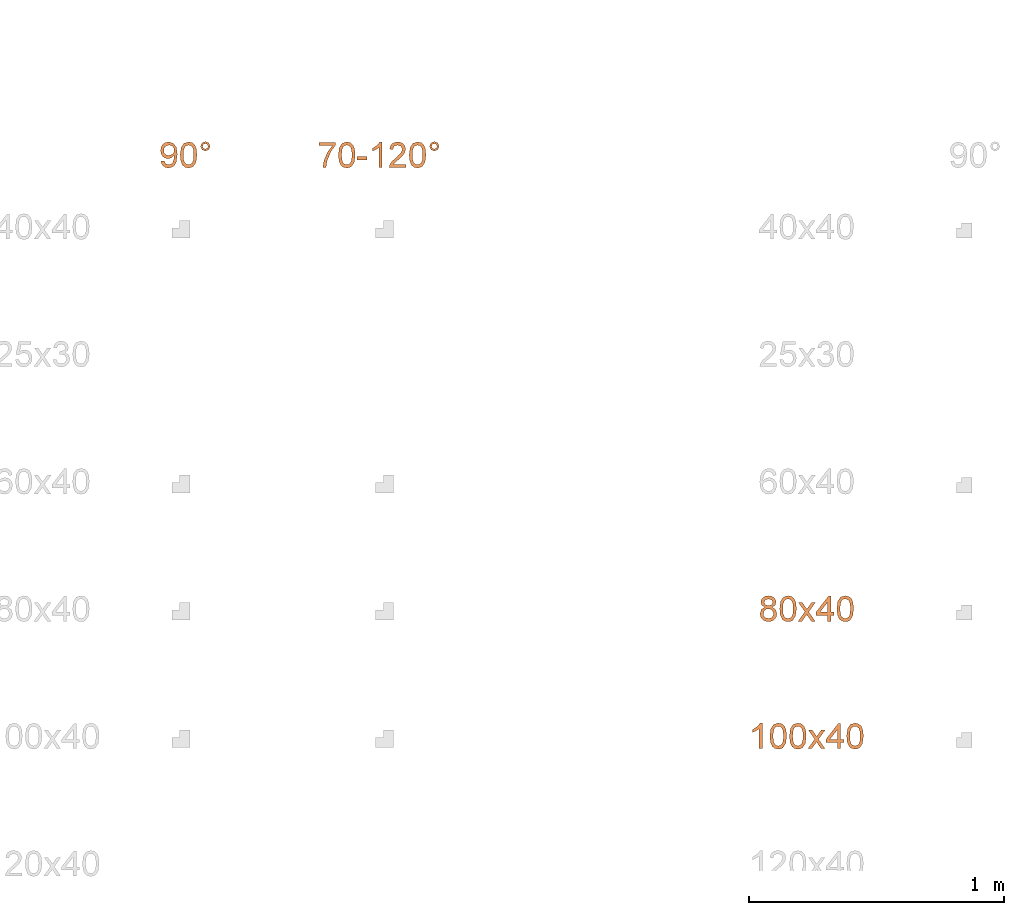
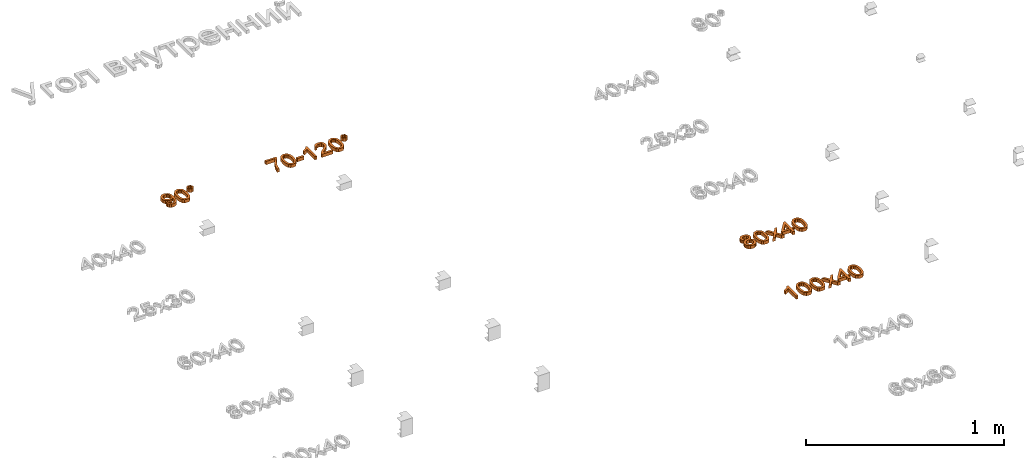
# One storey, part 60 of 71: 4 proxies.
"""IFC2X3 building model written with IfcOpenShell, lengths in millimetres."""

from ifc_helpers import new_model, entity, si_unit, converted_unit, derived_unit, direction, frame, frame_2d, origin, place, context, subcontext, project, spatial, polyline, rectangle, outline, extrude, element, save


model = new_model("IFC2X3")

# Units and contexts
model_context = context("Model", 3, precision=0.01, world=origin(), true_north=direction((6.12303176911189e-17, 1.0)))
body_context = subcontext(model_context, "Body", "Model", "MODEL_VIEW")
ifc_project = project(units=[si_unit("LENGTHUNIT", "METRE", prefix="MILLI"), si_unit("AREAUNIT", "SQUARE_METRE"), si_unit("VOLUMEUNIT", "CUBIC_METRE"), converted_unit("PLANEANGLEUNIT", "DEGREE", entity("IfcRatioMeasure", 0.0174532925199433), si_unit("PLANEANGLEUNIT", "RADIAN"), dimensions=[0, 0, 0, 0, 0, 0, 0]), si_unit("MASSUNIT", "GRAM", prefix="KILO"), derived_unit("MASSDENSITYUNIT", [(si_unit("MASSUNIT", "GRAM", prefix="KILO"), 1), (si_unit("LENGTHUNIT", "METRE"), -3)]), si_unit("TIMEUNIT", "SECOND"), si_unit("FREQUENCYUNIT", "HERTZ"), si_unit("THERMODYNAMICTEMPERATUREUNIT", "DEGREE_CELSIUS"), derived_unit("THERMALTRANSMITTANCEUNIT", [(si_unit("MASSUNIT", "GRAM", prefix="KILO"), 1), (si_unit("THERMODYNAMICTEMPERATUREUNIT", "KELVIN"), -1), (si_unit("TIMEUNIT", "SECOND"), -3)]), derived_unit("VOLUMETRICFLOWRATEUNIT", [(si_unit("LENGTHUNIT", "METRE"), 3), (si_unit("TIMEUNIT", "SECOND"), -1)]), si_unit("ELECTRICCURRENTUNIT", "AMPERE"), si_unit("ELECTRICVOLTAGEUNIT", "VOLT"), si_unit("POWERUNIT", "WATT"), si_unit("FORCEUNIT", "NEWTON", prefix="KILO"), si_unit("ILLUMINANCEUNIT", "LUX"), si_unit("LUMINOUSFLUXUNIT", "LUMEN"), si_unit("LUMINOUSINTENSITYUNIT", "CANDELA"), derived_unit("USERDEFINED", [(si_unit("MASSUNIT", "GRAM", prefix="KILO"), -1), (si_unit("LENGTHUNIT", "METRE"), -2), (si_unit("TIMEUNIT", "SECOND"), 3), (si_unit("LUMINOUSFLUXUNIT", "LUMEN"), 1)]), derived_unit("LINEARVELOCITYUNIT", [(si_unit("LENGTHUNIT", "METRE"), 1), (si_unit("TIMEUNIT", "SECOND"), -1)]), si_unit("PRESSUREUNIT", "PASCAL"), derived_unit("USERDEFINED", [(si_unit("LENGTHUNIT", "METRE"), -2), (si_unit("MASSUNIT", "GRAM", prefix="KILO"), 1), (si_unit("TIMEUNIT", "SECOND"), -2)])], contexts=[model_context])

# Site, building, storey
site_placement = place(None, origin())
site = spatial("IfcSite", under=ifc_project, at=site_placement, Name="Default", CompositionType="ELEMENT")
building_placement = place(site_placement, origin())
building = spatial("IfcBuilding", under=site, at=building_placement, Name="Наименование здания", CompositionType="ELEMENT")
storey_placement = place(building_placement, origin())
storey = spatial("IfcBuildingStorey", under=building, at=storey_placement, Name="Этаж 01", CompositionType="ELEMENT", Elevation=0.0)

# Proxies
proxy_1_placement = place(storey_placement, origin())
element("IfcBuildingElementProxy", 1, at=proxy_1_placement, inside=storey, Name="Текст модели:100 мм Arial", ObjectType="Текст модели:100 мм Arial", context=body_context, shape_type="SweptSolid", body=[
    extrude(outline(polyline([(5.58296908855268, -31.7859506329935), (17.2387167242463, -31.7859506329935), (26.9216142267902, -28.1739915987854), (34.2072820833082, -21.2554963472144), (38.6713407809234, -11.3358876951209), (39.9245387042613, -0.903731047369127), (37.9450282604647, 8.926618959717), (32.7793953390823, 17.8190246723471), (24.4742258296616, 25.4373484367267), (-3.90517077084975, 37.3659164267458), (-32.1440557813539, 40.5619140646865), (-49.776907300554, 32.5319597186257), (-59.468326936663, 16.6032994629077), (-60.4499889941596, 4.02951589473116), (-56.4016296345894, -7.53444362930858), (-47.8362588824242, -16.8026666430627), (-35.266886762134, -22.4892406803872), (-21.9841856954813, -23.8222776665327), (-10.3310965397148, -20.2832716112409), (-1.40106329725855, -12.8047998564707), (3.71247002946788, -2.31943974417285), (3.73902096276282, 11.9281903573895), (-2.8599761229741, 24.0883984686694), (-0.471643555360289, 23.5260231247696), (13.133413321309, 18.0099957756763), (22.6158894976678, 11.2224941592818), (27.0079821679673, 2.9145290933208), (26.6924060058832, -7.52395807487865), (20.3410079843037, -16.894547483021), (7.30988926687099, -19.2495752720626), (5.58296908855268, -31.7859506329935)]), holes=[polyline([(-21.7672208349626, 29.1433710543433), (-13.9803799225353, 25.5922442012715), (-8.91107638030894, 19.8291378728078), (-7.47464573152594, 4.45415101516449), (-10.9717321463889, -3.43916536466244), (-16.5473789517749, -8.73312215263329), (-23.5758136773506, -11.1761402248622), (-31.4312638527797, -10.5166404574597), (-39.4119601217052, -6.85973803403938), (-44.9206699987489, -0.817312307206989), (-47.529759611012, 6.83624740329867), (-46.8115950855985, 15.3265517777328), (-43.3781823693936, 22.7799280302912), (-37.7148363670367, 27.7965691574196), (-30.338776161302, 30.0324064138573), (-21.7672208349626, 29.1433710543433)])]), frame((15736.4732792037, 3356.70859072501, 0.0), z_axis=(0.0, 0.0, 1.0), x_axis=(0.258284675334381, -0.966068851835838, 0.0)), (0.0, 0.0, 1.0), 20.0),
    extrude(outline(polyline([(-7.02884310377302, -33.3490673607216), (17.5323805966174, -33.3490673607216), (35.198417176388, -27.6137612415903), (43.3439841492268, -18.4876517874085), (47.051694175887, -5.75150665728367), (46.7162020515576, 4.48638208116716), (43.4465778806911, 13.0955287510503), (27.9444305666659, 25.6659118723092), (-0.314338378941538, 32.2325535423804), (-24.0296505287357, 32.3678288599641), (-39.4143020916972, 28.0260881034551), (-49.7293680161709, 18.9002174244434), (-54.4436715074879, 4.63998875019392), (-50.8676582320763, -14.1301059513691), (-35.4058547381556, -26.7333390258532), (-7.02884310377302, -33.3490673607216)]), holes=[polyline([(-5.7742877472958, -20.8548320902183), (-25.0157644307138, -17.3562860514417), (-36.7257089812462, -11.5717922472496), (-41.0962588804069, -4.77599682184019), (-41.9669219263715, 3.21464792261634), (-39.2244253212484, 11.2791292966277), (-32.8654063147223, 17.2229259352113), (-20.9698370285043, 20.2947501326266), (-1.61768958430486, 19.7433141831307), (17.8514140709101, 16.2707701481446), (28.7803640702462, 10.7141596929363), (33.5546988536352, 3.61815959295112), (34.55995686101, -4.47255337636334), (31.9421230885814, -12.1923199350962), (25.8471825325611, -18.175480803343), (14.0250679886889, -21.4027476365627), (-5.7742877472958, -20.8548320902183)])]), frame((15816.4416279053, 3363.81433365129, 0.0), z_axis=(0.0, 0.0, 1.0), x_axis=(0.1018515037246, -0.994799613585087, 0.0)), (0.0, 0.0, 1.0), 20.0),
    extrude(outline(polyline([(-7.21350075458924, -17.3978764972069), (7.25185236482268, -17.3978764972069), (17.4056913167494, -7.22668745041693), (17.3916262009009, 7.20467237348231), (7.18917787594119, 17.4112581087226), (-7.21678573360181, 17.4264979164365), (-17.4034432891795, 7.17599118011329), (-17.4046179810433, -7.19597913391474), (-7.21350075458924, -17.3978764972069)]), holes=[polyline([(-4.19028050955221, -10.1553501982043), (-10.1411551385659, -4.20284347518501), (-10.1327867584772, 4.2207575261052), (-4.2056762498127, 10.142327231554), (4.21128202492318, 10.1499783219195), (10.1621566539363, 4.19747159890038), (10.1725417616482, -4.18080500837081), (4.22667776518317, -10.1476991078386), (-4.19028050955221, -10.1553501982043)])]), frame((15881.4352378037, 3401.19226844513, 0.0), z_axis=(0.0, 0.0, 1.0), x_axis=(0.38232683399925, -0.924027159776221, 0.0)), (0.0, 0.0, 1.0), 20.0),
])
proxy_2_placement = place(storey_placement, origin())
element("IfcBuildingElementProxy", 2, at=proxy_2_placement, inside=storey, Name="Текст модели:100 мм Arial", ObjectType="Текст модели:100 мм Arial", context=body_context, shape_type="SweptSolid", body=[
    extrude(outline(polyline([(-33.1249866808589, -28.4339338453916), (-33.1249866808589, -40.9909726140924), (32.7994668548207, -40.9909726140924), (32.7994668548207, -30.837429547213), (14.0987987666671, -3.82262836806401), (-0.211810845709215, 30.5988636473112), (-4.87164945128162, 57.8957076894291), (-17.4286882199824, 57.8957076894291), (-12.4377558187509, 29.5687940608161), (1.25971713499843, -2.44920225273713), (20.2424280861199, -28.4339338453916), (-33.1249866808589, -28.4339338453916)])), frame((16359.8509731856, 3375.88686440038, 0.0), z_axis=(0.0, 0.0, -1.0), x_axis=(1.0, 0.0, 0.0)), (0.0, 0.0, -1.0), 20.0),
    extrude(outline(polyline([(-7.02884310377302, -33.3490673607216), (17.5323805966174, -33.3490673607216), (35.198417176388, -27.6137612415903), (43.3439841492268, -18.4876517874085), (47.051694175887, -5.75150665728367), (46.7162020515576, 4.48638208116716), (43.4465778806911, 13.0955287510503), (27.9444305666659, 25.6659118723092), (-0.314338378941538, 32.2325535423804), (-24.0296505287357, 32.3678288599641), (-39.4143020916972, 28.0260881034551), (-49.7293680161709, 18.9002174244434), (-54.4436715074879, 4.63998875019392), (-50.8676582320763, -14.1301059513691), (-35.4058547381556, -26.7333390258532), (-7.02884310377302, -33.3490673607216)]), holes=[polyline([(-5.7742877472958, -20.8548320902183), (-25.0157644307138, -17.3562860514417), (-36.7257089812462, -11.5717922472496), (-41.0962588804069, -4.77599682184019), (-41.9669219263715, 3.21464792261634), (-39.2244253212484, 11.2791292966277), (-32.8654063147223, 17.2229259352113), (-20.9698370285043, 20.2947501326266), (-1.61768958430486, 19.7433141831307), (17.8514140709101, 16.2707701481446), (28.7803640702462, 10.7141596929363), (33.5546988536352, 3.61815959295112), (34.55995686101, -4.47255337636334), (31.9421230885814, -12.1923199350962), (25.8471825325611, -18.175480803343), (14.0250679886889, -21.4027476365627), (-5.7742877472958, -20.8548320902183)])]), frame((16437.5293865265, 3363.81433365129, 0.0), z_axis=(0.0, 0.0, 1.0), x_axis=(0.1018515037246, -0.994799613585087, 0.0)), (0.0, 0.0, 1.0), 20.0),
    extrude(rectangle(XDim=39.2407461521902, YDim=12.5570387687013, at=frame_2d((-1.08357767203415e-12, 2.70450328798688e-13), x_axis=(1.0, 0.0))), frame((16497.0308248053, 3354.09264317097, 0.0)), (0.0, 0.0, 1.0), 20.0),
    extrude(outline(polyline([(-63.8793021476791, -16.9184842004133), (36.5770080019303, -16.9184842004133), (36.5770080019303, -8.82508030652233), (23.21062884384, 2.34626961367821), (11.4629304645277, 20.7526321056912), (-0.40739524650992, 20.7526321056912), (5.93243780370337, 7.53340574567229), (14.4059864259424, -4.36144543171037), (-63.8793021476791, -4.36144543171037), (-63.8793021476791, -16.9184842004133)])), frame((16557.8090179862, 3381.87045885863, 0.0), z_axis=(0.0, 0.0, 1.0), x_axis=(0.0, 1.0, 0.0)), (0.0, 0.0, 1.0), 20.0),
    extrude(outline(polyline([(-32.3858783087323, -45.1669477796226), (-32.3858783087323, -57.7239865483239), (33.5385752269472, -57.7239865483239), (32.1896745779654, -49.0664969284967), (24.5622545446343, -35.7369059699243), (8.84143061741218, -21.1810416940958), (-12.839081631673, -0.260818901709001), (-18.2592096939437, 13.9639515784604), (-13.1456499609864, 25.4786580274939), (0.208466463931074, 30.1752848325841), (14.1266686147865, 25.5890226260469), (19.4119066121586, 12.9093565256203), (31.9689453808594, 14.4789863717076), (28.9247218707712, 26.6252235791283), (22.3426998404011, 35.4973110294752), (12.5662358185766, 40.9235704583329), (-0.0613136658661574, 42.7323236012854), (-12.7808336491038, 40.7212353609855), (-22.538903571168, 34.6879706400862), (-28.7469122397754, 25.6748617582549), (-30.8162484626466, 14.7242410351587), (-28.5844310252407, 2.81712712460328), (-21.1654774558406, -9.49465698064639), (-3.17604789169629, -26.6992716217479), (11.2694517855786, -38.7780637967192), (16.934834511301, -45.1669477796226), (-32.3858783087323, -45.1669477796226)])), frame((16636.5194146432, 3375.71514325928, 0.0), z_axis=(0.0, 0.0, -1.0), x_axis=(-1.0, 0.0, 0.0)), (0.0, 0.0, -1.0), 20.0),
    extrude(outline(polyline([(-7.02884310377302, -33.3490673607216), (17.5323805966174, -33.3490673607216), (35.198417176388, -27.6137612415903), (43.3439841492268, -18.4876517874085), (47.051694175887, -5.75150665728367), (46.7162020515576, 4.48638208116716), (43.4465778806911, 13.0955287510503), (27.9444305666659, 25.6659118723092), (-0.314338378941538, 32.2325535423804), (-24.0296505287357, 32.3678288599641), (-39.4143020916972, 28.0260881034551), (-49.7293680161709, 18.9002174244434), (-54.4436715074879, 4.63998875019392), (-50.8676582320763, -14.1301059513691), (-35.4058547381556, -26.7333390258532), (-7.02884310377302, -33.3490673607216)]), holes=[polyline([(-5.7742877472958, -20.8548320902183), (-25.0157644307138, -17.3562860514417), (-36.7257089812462, -11.5717922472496), (-41.0962588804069, -4.77599682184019), (-41.9669219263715, 3.21464792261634), (-39.2244253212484, 11.2791292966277), (-32.8654063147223, 17.2229259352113), (-20.9698370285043, 20.2947501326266), (-1.61768958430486, 19.7433141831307), (17.8514140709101, 16.2707701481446), (28.7803640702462, 10.7141596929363), (33.5546988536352, 3.61815959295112), (34.55995686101, -4.47255337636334), (31.9421230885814, -12.1923199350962), (25.8471825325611, -18.175480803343), (14.0250679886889, -21.4027476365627), (-5.7742877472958, -20.8548320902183)])]), frame((16715.353869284, 3363.81433365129, 0.0), z_axis=(0.0, 0.0, 1.0), x_axis=(0.1018515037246, -0.994799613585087, 0.0)), (0.0, 0.0, 1.0), 20.0),
    extrude(outline(polyline([(-7.21350075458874, -17.3978764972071), (7.25185236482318, -17.3978764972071), (17.4056913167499, -7.22668745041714), (17.3916262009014, 7.2046723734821), (7.18917787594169, 17.4112581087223), (-7.21678573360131, 17.4264979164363), (-17.403443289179, 7.17599118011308), (-17.4046179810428, -7.19597913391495), (-7.21350075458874, -17.3978764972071)]), holes=[polyline([(-4.19028050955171, -10.1553501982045), (-10.1411551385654, -4.20284347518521), (-10.1327867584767, 4.220757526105), (-4.2056762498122, 10.1423272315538), (4.21128202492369, 10.1499783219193), (10.1621566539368, 4.19747159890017), (10.1725417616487, -4.18080500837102), (4.22667776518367, -10.1476991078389), (-4.19028050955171, -10.1553501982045)])]), frame((16780.3474791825, 3401.19226844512, 0.0), z_axis=(0.0, 0.0, 1.0), x_axis=(0.38232683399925, -0.924027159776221, 0.0)), (0.0, 0.0, 1.0), 20.0),
])
proxy_3_placement = place(storey_placement, origin())
element("IfcBuildingElementProxy", 3, at=proxy_3_placement, inside=storey, Name="Текст модели:100 мм Arial", ObjectType="Текст модели:100 мм Arial", context=body_context, shape_type="SweptSolid", body=[
    extrude(outline(polyline([(10.1224324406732, -11.2212127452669), (26.4477736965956, -11.2212127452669), (39.6861381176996, -0.0909413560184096), (44.6322314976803, 11.307815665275), (44.5856416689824, 23.4168603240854), (39.6073830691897, 34.8346290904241), (29.7584701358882, 44.1595584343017), (17.4236057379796, 49.7956565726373), (4.98749274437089, 50.1469317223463), (-6.20047708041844, 45.7236060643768), (-14.7909119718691, 37.0359017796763), (-20.0781666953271, 21.0056847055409), (-14.5070621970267, 5.3769249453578), (-28.0684052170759, 5.15563707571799), (-37.7221714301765, -2.60845010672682), (-41.5236361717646, -11.9357006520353), (-41.0036870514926, -22.2232653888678), (-36.1916154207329, -32.1870777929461), (-27.1167126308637, -40.5430713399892), (-16.0503295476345, -45.8123091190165), (-5.18246445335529, -46.5706787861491), (4.38453303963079, -43.2361071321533), (11.5483133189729, -36.226520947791), (15.2516244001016, -24.0826582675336), (10.1224324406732, -11.2212127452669)]), holes=[polyline([(1.34077476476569, -28.9039041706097), (-7.5377101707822, -33.9815875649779), (-20.2415350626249, -30.033997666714), (-28.5905650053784, -19.6902819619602), (-26.9800933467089, -9.13787919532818), (-18.11089321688, -3.87648928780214), (-5.45128168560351, -7.82385811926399), (3.15927028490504, -18.2403048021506), (1.34077476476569, -28.9039041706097)]), polyline([(29.0262968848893, 6.56051660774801), (17.18065332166, -1.51571690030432), (9.68494123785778, -1.27757268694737), (1.95268767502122, 2.32885586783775), (-4.46267094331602, 8.27886886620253), (-7.64161156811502, 15.3010558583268), (-4.59707955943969, 29.6929468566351), (7.31333657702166, 37.7994665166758), (14.8367372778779, 37.4872096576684), (22.6595729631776, 33.8012523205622), (30.3730358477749, 25.5864099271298), (32.5711030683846, 15.5727469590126), (29.0262968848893, 6.56051660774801)])]), frame((18091.8607415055, 1588.34577768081, 0.0), z_axis=(0.0, 0.0, 1.0), x_axis=(-0.829266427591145, -0.558853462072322, 0.0)), (0.0, 0.0, 1.0), 20.0),
    extrude(outline(polyline([(-7.02884310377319, -33.3490673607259), (17.5323805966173, -33.3490673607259), (35.198417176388, -27.6137612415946), (43.3439841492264, -18.4876517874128), (47.0516941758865, -5.75150665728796), (46.7162020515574, 4.48638208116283), (43.4465778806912, 13.095528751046), (27.9444305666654, 25.6659118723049), (-0.31433837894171, 32.2325535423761), (-24.0296505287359, 32.3678288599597), (-39.4143020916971, 28.0260881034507), (-49.7293680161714, 18.9002174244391), (-54.4436715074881, 4.63998875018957), (-50.8676582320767, -14.1301059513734), (-35.4058547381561, -26.7333390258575), (-7.02884310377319, -33.3490673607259)]), holes=[polyline([(-5.77428774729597, -20.8548320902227), (-25.0157644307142, -17.356286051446), (-36.7257089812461, -11.571792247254), (-41.0962588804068, -4.77599682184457), (-41.9669219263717, 3.21464792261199), (-39.2244253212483, 11.2791292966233), (-32.8654063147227, 17.222925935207), (-20.9698370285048, 20.2947501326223), (-1.61768958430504, 19.7433141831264), (17.8514140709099, 16.2707701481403), (28.780364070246, 10.7141596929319), (33.5546988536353, 3.61815959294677), (34.5599568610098, -4.47255337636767), (31.9421230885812, -12.1923199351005), (25.8471825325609, -18.1754808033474), (14.0250679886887, -21.4027476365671), (-5.77428774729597, -20.8548320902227)])]), frame((18169.7029366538, 1582.487921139, 0.0), z_axis=(0.0, 0.0, 1.0), x_axis=(0.1018515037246, -0.994799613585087, 0.0)), (0.0, 0.0, 1.0), 20.0),
    extrude(outline(polyline([(-34.530221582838, -38.4265006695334), (-19.422534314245, -38.4265006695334), (-0.341721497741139, -12.0616243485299), (2.47870713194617, -16.1328517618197), (17.8561745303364, -38.4265006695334), (32.9638617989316, -38.4265006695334), (7.40832586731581, -1.34399555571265), (33.944880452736, 35.3461020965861), (18.8371931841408, 35.3461020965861), (4.95577923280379, 16.1671874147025), (0.0261604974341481, 9.34910777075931), (-5.66374769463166, 17.6877663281), (-17.8529044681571, 35.3461020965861), (-32.9605917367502, 35.3461020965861), (-7.6993614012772, -1.34399555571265), (-34.530221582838, -38.4265006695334)])), frame((18242.5445935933, 1575.0912448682, 0.0)), (0.0, 0.0, 1.0), 20.0),
    extrude(outline(polyline([(-1.14154897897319, -36.3868737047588), (11.4154897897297, -36.3868737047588), (11.4154897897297, -12.8424260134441), (23.9725285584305, -12.8424260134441), (23.9725285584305, -0.285387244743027), (11.4154897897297, -0.285387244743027), (11.4154897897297, 62.499806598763), (1.99771071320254, 62.499806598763), (-46.6608145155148, -0.285387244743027), (-46.6608145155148, -12.8424260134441), (-1.14154897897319, -12.8424260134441), (-1.14154897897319, -36.3868737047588)]), holes=[polyline([(-1.14154897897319, -0.285387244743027), (-31.2097707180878, -0.285387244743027), (-1.14154897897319, 38.5139005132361), (-1.14154897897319, -0.285387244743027)])]), frame((18325.3085295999, 1573.05161790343, 0.0)), (0.0, 0.0, 1.0), 20.0),
    extrude(outline(polyline([(-7.02884310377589, -33.3490673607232), (17.5323805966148, -33.3490673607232), (35.1984171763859, -27.6137612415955), (43.343984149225, -18.4876517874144), (47.0516941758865, -5.75150665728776), (46.7162020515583, 4.48638208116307), (43.4465778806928, 13.0955287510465), (27.9444305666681, 25.6659118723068), (-0.314338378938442, 32.2325535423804), (-24.0296505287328, 32.367828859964), (-39.4143020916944, 28.0260881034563), (-49.7293680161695, 18.9002174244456), (-54.4436715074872, 4.63998875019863), (-50.8676582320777, -14.1301059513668), (-35.405854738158, -26.7333390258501), (-7.02884310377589, -33.3490673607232)]), holes=[polyline([(-5.77428774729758, -20.85483209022), (-25.0157644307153, -17.3562860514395), (-36.7257089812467, -11.5717922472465), (-41.0962588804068, -4.77599682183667), (-41.9669219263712, 3.21464792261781), (-39.2244253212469, 11.2791292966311), (-32.8654063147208, 17.2229259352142), (-20.9698370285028, 20.2947501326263), (-1.61768958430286, 19.7433141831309), (17.8514140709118, 16.270770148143), (28.7803640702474, 10.7141596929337), (33.554698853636, 3.61815959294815), (34.5599568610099, -4.47255337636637), (31.9421230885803, -12.1923199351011), (25.8471825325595, -18.1754808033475), (14.0250679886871, -21.4027476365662), (-5.77428774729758, -20.85483209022)])]), frame((18394.1600046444, 1582.487921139, 0.0), z_axis=(0.0, 0.0, 1.0), x_axis=(0.101851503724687, -0.994799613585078, 0.0)), (0.0, 0.0, 1.0), 20.0),
])
proxy_4_placement = place(storey_placement, origin())
element("IfcBuildingElementProxy", 4, at=proxy_4_placement, inside=storey, Name="Текст модели:100 мм Arial", ObjectType="Текст модели:100 мм Arial", context=body_context, shape_type="SweptSolid", body=[
    extrude(outline(polyline([(-63.8793021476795, -16.9184842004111), (36.5770080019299, -16.9184842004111), (36.5770080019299, -8.82508030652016), (23.2106288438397, 2.34626961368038), (11.4629304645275, 20.7526321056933), (-0.407395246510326, 20.7526321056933), (5.9324378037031, 7.53340574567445), (14.4059864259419, -4.3614454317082), (-63.8793021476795, -4.3614454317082), (-63.8793021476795, -16.9184842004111)])), frame((18050.6140165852, 1100.54404634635, 0.0), z_axis=(0.0, 0.0, 1.0), x_axis=(0.0, 1.0, 0.0)), (0.0, 0.0, 1.0), 20.0),
    extrude(outline(polyline([(-7.02884310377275, -33.3490673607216), (17.5323805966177, -33.3490673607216), (35.1984171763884, -27.6137612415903), (43.3439841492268, -18.4876517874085), (47.051694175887, -5.75150665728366), (46.7162020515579, 4.48638208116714), (43.4465778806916, 13.0955287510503), (27.944430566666, 25.6659118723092), (-0.314338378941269, 32.2325535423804), (-24.0296505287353, 32.367828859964), (-39.4143020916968, 28.026088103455), (-49.7293680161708, 18.9002174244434), (-54.4436715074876, 4.63998875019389), (-50.8676582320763, -14.1301059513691), (-35.4058547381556, -26.7333390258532), (-7.02884310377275, -33.3490673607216)]), holes=[polyline([(-5.77428774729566, -20.8548320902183), (-25.0157644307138, -17.3562860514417), (-36.7257089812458, -11.5717922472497), (-41.0962588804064, -4.77599682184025), (-41.9669219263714, 3.21464792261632), (-39.224425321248, 11.2791292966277), (-32.8654063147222, 17.2229259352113), (-20.9698370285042, 20.2947501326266), (-1.61768958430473, 19.7433141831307), (17.8514140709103, 16.2707701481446), (28.7803640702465, 10.7141596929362), (33.5546988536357, 3.61815959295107), (34.5599568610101, -4.47255337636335), (31.9421230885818, -12.1923199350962), (25.8471825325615, -18.1754808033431), (14.0250679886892, -21.4027476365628), (-5.77428774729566, -20.8548320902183)])]), frame((18131.2470054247, 1082.487921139, 0.0), z_axis=(0.0, 0.0, 1.0), x_axis=(0.1018515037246, -0.994799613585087, 0.0)), (0.0, 0.0, 1.0), 20.0),
    extrude(outline(polyline([(-7.02884310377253, -33.3490673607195), (17.5323805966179, -33.3490673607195), (35.1984171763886, -27.6137612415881), (43.3439841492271, -18.4876517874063), (47.0516941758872, -5.75150665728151), (46.7162020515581, 4.48638208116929), (43.4465778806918, 13.0955287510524), (27.9444305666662, 25.6659118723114), (-0.314338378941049, 32.2325535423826), (-24.0296505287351, 32.3678288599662), (-39.4143020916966, 28.0260881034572), (-49.7293680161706, 18.9002174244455), (-54.4436715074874, 4.63998875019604), (-50.8676582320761, -14.1301059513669), (-35.4058547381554, -26.733339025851), (-7.02884310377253, -33.3490673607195)]), holes=[polyline([(-5.77428774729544, -20.8548320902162), (-25.0157644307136, -17.3562860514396), (-36.7257089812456, -11.5717922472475), (-41.0962588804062, -4.7759968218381), (-41.9669219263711, 3.21464792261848), (-39.2244253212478, 11.2791292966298), (-32.8654063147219, 17.2229259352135), (-20.969837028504, 20.2947501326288), (-1.61768958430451, 19.7433141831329), (17.8514140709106, 16.2707701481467), (28.7803640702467, 10.7141596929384), (33.5546988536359, 3.61815959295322), (34.5599568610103, -4.47255337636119), (31.942123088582, -12.192319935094), (25.8471825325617, -18.1754808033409), (14.0250679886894, -21.4027476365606), (-5.77428774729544, -20.8548320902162)])]), frame((18208.158867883, 1082.487921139, 0.0), z_axis=(0.0, 0.0, 1.0), x_axis=(0.1018515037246, -0.994799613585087, 0.0)), (0.0, 0.0, 1.0), 20.0),
    extrude(outline(polyline([(-34.530221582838, -38.4265006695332), (-19.422534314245, -38.4265006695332), (-0.341721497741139, -12.0616243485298), (2.47870713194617, -16.1328517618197), (17.8561745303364, -38.4265006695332), (32.9638617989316, -38.4265006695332), (7.40832586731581, -1.34399555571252), (33.944880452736, 35.3461020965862), (18.8371931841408, 35.3461020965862), (4.95577923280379, 16.1671874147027), (0.0261604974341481, 9.34910777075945), (-5.66374769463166, 17.6877663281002), (-17.8529044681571, 35.3461020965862), (-32.9605917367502, 35.3461020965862), (-7.6993614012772, -1.34399555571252), (-34.530221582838, -38.4265006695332)])), frame((18281.0005248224, 1075.0912448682, 0.0)), (0.0, 0.0, 1.0), 20.0),
    extrude(outline(polyline([(-1.14154897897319, -36.3868737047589), (11.4154897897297, -36.3868737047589), (11.4154897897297, -12.8424260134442), (23.9725285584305, -12.8424260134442), (23.9725285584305, -0.285387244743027), (11.4154897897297, -0.285387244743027), (11.4154897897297, 62.4998065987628), (1.99771071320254, 62.4998065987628), (-46.6608145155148, -0.285387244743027), (-46.6608145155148, -12.8424260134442), (-1.14154897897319, -12.8424260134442), (-1.14154897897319, -36.3868737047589)]), holes=[polyline([(-1.14154897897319, -0.285387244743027), (-31.2097707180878, -0.285387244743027), (-1.14154897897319, 38.5139005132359), (-1.14154897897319, -0.285387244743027)])]), frame((18363.764460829, 1073.05161790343, 0.0)), (0.0, 0.0, 1.0), 20.0),
    extrude(outline(polyline([(-7.02884310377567, -33.349067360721), (17.532380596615, -33.349067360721), (35.1984171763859, -27.6137612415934), (43.3439841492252, -18.4876517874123), (47.0516941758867, -5.75150665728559), (46.7162020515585, 4.48638208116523), (43.446577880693, 13.0955287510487), (27.9444305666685, 25.6659118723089), (-0.314338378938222, 32.2325535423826), (-24.0296505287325, 32.3678288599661), (-39.4143020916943, 28.0260881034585), (-49.7293680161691, 18.9002174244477), (-54.443671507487, 4.63998875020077), (-50.8676582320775, -14.1301059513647), (-35.4058547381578, -26.733339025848), (-7.02884310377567, -33.349067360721)]), holes=[polyline([(-5.77428774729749, -20.8548320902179), (-25.0157644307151, -17.3562860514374), (-36.7257089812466, -11.5717922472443), (-41.0962588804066, -4.77599682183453), (-41.9669219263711, 3.21464792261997), (-39.2244253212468, 11.2791292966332), (-32.8654063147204, 17.2229259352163), (-20.9698370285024, 20.2947501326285), (-1.61768958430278, 19.743314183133), (17.851414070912, 16.2707701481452), (28.7803640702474, 10.7141596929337), (33.5546988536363, 3.61815959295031), (34.5599568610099, -4.4725533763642), (31.9421230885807, -12.192319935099), (25.8471825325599, -18.1754808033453), (14.0250679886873, -21.402747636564), (-5.77428774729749, -20.8548320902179)])]), frame((18432.6159358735, 1082.487921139, 0.0), z_axis=(0.0, 0.0, 1.0), x_axis=(0.101851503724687, -0.994799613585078, 0.0)), (0.0, 0.0, 1.0), 20.0),
])

save(model, "model.ifc")
